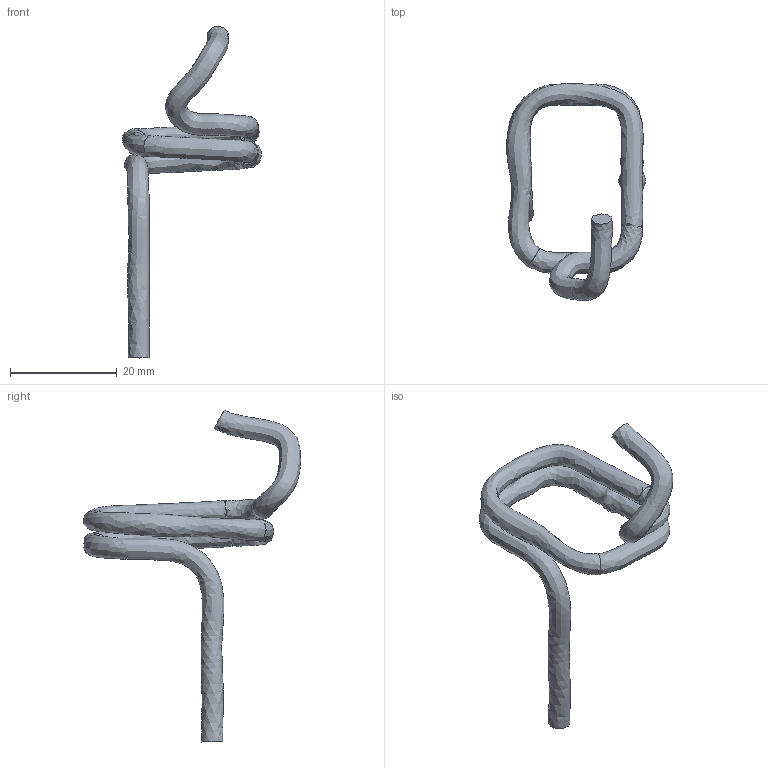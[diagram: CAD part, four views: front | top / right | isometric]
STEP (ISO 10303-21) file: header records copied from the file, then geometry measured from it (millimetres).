
FILE_DESCRIPTION(('Open CASCADE Model'),'2;1');
FILE_NAME('Open CASCADE Shape Model','2026-11-01T16:33:58',('Author'),( 'Open CASCADE'),'Open CASCADE STEP processor 8.0','build123d', 'Unknown');
FILE_SCHEMA(('AUTOMOTIVE_DESIGN { 1 0 10303 214 1 1 1 1 }'));
Length unit declared in the file: millimetre
Products named in the file (1): COMPOUND
Bounding box: 26.1 x 40.71 x 62.18 mm (x, y, z)
Volume: 2928.7 mm3; surface area: 2985.5 mm2
Topology: 2 solids, 2 shells, 6 faces, 6 edges, 4 vertices
Faces by surface type: plane 4, bspline 2
Entity records: 14960 total; most frequent: CARTESIAN_POINT 14835, DIRECTION 16, ORIENTED_EDGE 12, PCURVE 12, DEFINITIONAL_REPRESENTATION 12, ADVANCED_FACE 6, FACE_BOUND 6, EDGE_LOOP 6
